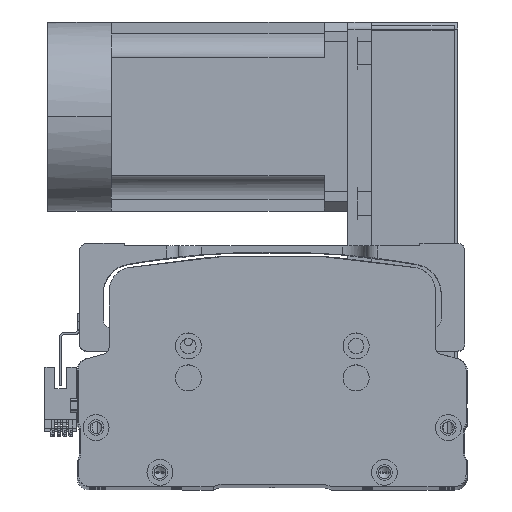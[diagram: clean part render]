
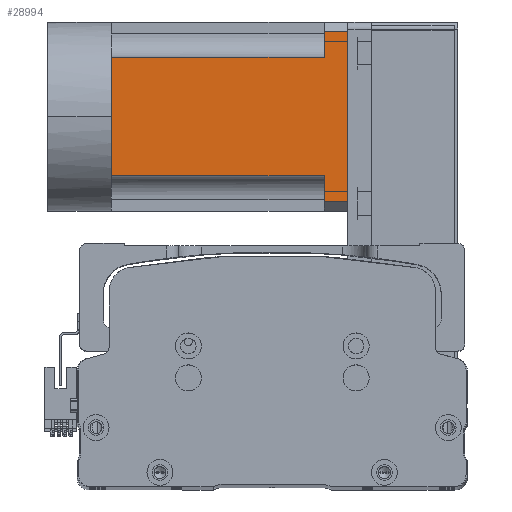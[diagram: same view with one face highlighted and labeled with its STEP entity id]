
A CAD part, top view. The second image highlights one B-rep face of the part: STEP entity #28994.
In plain terms, the highlighted planar face has unit normal (0, 0, 1) as drawn and (0, 0, -1) by its records, which use the part's own axes.
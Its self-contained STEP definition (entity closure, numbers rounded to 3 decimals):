
#78 = DIRECTION ( 'NONE',  ( -1., 0., 0. ) ) ;
#996 = DIRECTION ( 'NONE',  ( 0., 0., -1. ) ) ;
#1486 = EDGE_LOOP ( 'NONE', ( #32281, #61225, #5238, #38092, #12274, #51672, #6240, #59063, #59424 ) ) ;
#1955 = DIRECTION ( 'NONE',  ( -1., 0., 0. ) ) ;
#2124 = CARTESIAN_POINT ( 'NONE',  ( 0., 0., -40. ) ) ;
#2973 = VECTOR ( 'NONE', #49490, 1000. ) ;
#3785 = CARTESIAN_POINT ( 'NONE',  ( 25., 90., -40. ) ) ;
#4477 = LINE ( 'NONE', #30307, #2973 ) ;
#4815 = EDGE_CURVE ( 'NONE', #37318, #31065, #4477, .T. ) ;
#5238 = ORIENTED_EDGE ( 'NONE', *, *, #39622, .T. ) ;
#6240 = ORIENTED_EDGE ( 'NONE', *, *, #35526, .T. ) ;
#6876 = FACE_OUTER_BOUND ( 'NONE', #1486, .T. ) ;
#7784 = VECTOR ( 'NONE', #1955, 1000. ) ;
#9602 = VECTOR ( 'NONE', #51376, 1000. ) ;
#9955 = DIRECTION ( 'NONE',  ( -1., 0., 0. ) ) ;
#10301 = EDGE_CURVE ( 'NONE', #51426, #16633, #18190, .T. ) ;
#10379 = DIRECTION ( 'NONE',  ( -1., 0., 0. ) ) ;
#12274 = ORIENTED_EDGE ( 'NONE', *, *, #32352, .T. ) ;
#13702 = VECTOR ( 'NONE', #10379, 1000. ) ;
#14902 = LINE ( 'NONE', #51728, #40455 ) ;
#15242 = CARTESIAN_POINT ( 'NONE',  ( -40., -27., -40. ) ) ;
#16633 = VERTEX_POINT ( 'NONE', #56969 ) ;
#17723 = CARTESIAN_POINT ( 'NONE',  ( -36., -27., -40. ) ) ;
#18175 = DIRECTION ( 'NONE',  ( 0., -1., 0. ) ) ;
#18190 = LINE ( 'NONE', #43968, #13702 ) ;
#19078 = CARTESIAN_POINT ( 'NONE',  ( 36., 100., -40. ) ) ;
#19434 = VECTOR ( 'NONE', #78, 1000. ) ;
#20803 = EDGE_CURVE ( 'NONE', #58545, #23748, #44734, .T. ) ;
#22663 = CARTESIAN_POINT ( 'NONE',  ( -36., 100., -40. ) ) ;
#23031 = CARTESIAN_POINT ( 'NONE',  ( 36., -27., -40. ) ) ;
#23748 = VERTEX_POINT ( 'NONE', #42927 ) ;
#24016 = CARTESIAN_POINT ( 'NONE',  ( -40., 90., -40. ) ) ;
#27928 = VERTEX_POINT ( 'NONE', #40456 ) ;
#28665 = LINE ( 'NONE', #23031, #52732 ) ;
#28994 = ADVANCED_FACE ( 'NONE', ( #6876 ), #58539, .T. ) ;
#30307 = CARTESIAN_POINT ( 'NONE',  ( -40., 0., -40. ) ) ;
#31065 = VERTEX_POINT ( 'NONE', #58262 ) ;
#32281 = ORIENTED_EDGE ( 'NONE', *, *, #56486, .F. ) ;
#32352 = EDGE_CURVE ( 'NONE', #23748, #37318, #33319, .T. ) ;
#33319 = LINE ( 'NONE', #54649, #7784 ) ;
#33635 = CARTESIAN_POINT ( 'NONE',  ( -40., 100., -40. ) ) ;
#34580 = DIRECTION ( 'NONE',  ( -1., 0., 0. ) ) ;
#35107 = LINE ( 'NONE', #24016, #46349 ) ;
#35152 = LINE ( 'NONE', #17723, #9602 ) ;
#35526 = EDGE_CURVE ( 'NONE', #31065, #51426, #14902, .T. ) ;
#37318 = VERTEX_POINT ( 'NONE', #2124 ) ;
#37372 = DIRECTION ( 'NONE',  ( 0., -1., 0. ) ) ;
#38092 = ORIENTED_EDGE ( 'NONE', *, *, #20803, .T. ) ;
#39350 = CARTESIAN_POINT ( 'NONE',  ( -25., 90., -40. ) ) ;
#39400 = AXIS2_PLACEMENT_3D ( 'NONE', #15242, #996, #34580 ) ;
#39622 = EDGE_CURVE ( 'NONE', #27928, #58545, #35107, .T. ) ;
#40455 = VECTOR ( 'NONE', #41846, 1000. ) ;
#40456 = CARTESIAN_POINT ( 'NONE',  ( 36., 90., -40. ) ) ;
#41846 = DIRECTION ( 'NONE',  ( 0., 1., 0. ) ) ;
#42927 = CARTESIAN_POINT ( 'NONE',  ( 25., 0., -40. ) ) ;
#43968 = CARTESIAN_POINT ( 'NONE',  ( -40., 90., -40. ) ) ;
#44734 = LINE ( 'NONE', #61363, #55993 ) ;
#46349 = VECTOR ( 'NONE', #9955, 1000. ) ;
#48868 = VERTEX_POINT ( 'NONE', #22663 ) ;
#49490 = DIRECTION ( 'NONE',  ( -1., 0., 0. ) ) ;
#51156 = EDGE_CURVE ( 'NONE', #16633, #48868, #35152, .T. ) ;
#51376 = DIRECTION ( 'NONE',  ( 0., 1., 0. ) ) ;
#51426 = VERTEX_POINT ( 'NONE', #39350 ) ;
#51672 = ORIENTED_EDGE ( 'NONE', *, *, #4815, .T. ) ;
#51728 = CARTESIAN_POINT ( 'NONE',  ( -25., -27., -40. ) ) ;
#52732 = VECTOR ( 'NONE', #18175, 1000. ) ;
#54649 = CARTESIAN_POINT ( 'NONE',  ( -40., 0., -40. ) ) ;
#55136 = EDGE_CURVE ( 'NONE', #60308, #27928, #28665, .T. ) ;
#55993 = VECTOR ( 'NONE', #37372, 1000. ) ;
#56486 = EDGE_CURVE ( 'NONE', #60308, #48868, #59340, .T. ) ;
#56969 = CARTESIAN_POINT ( 'NONE',  ( -36., 90., -40. ) ) ;
#58262 = CARTESIAN_POINT ( 'NONE',  ( -25., 0., -40. ) ) ;
#58539 = PLANE ( 'NONE',  #39400 ) ;
#58545 = VERTEX_POINT ( 'NONE', #3785 ) ;
#59063 = ORIENTED_EDGE ( 'NONE', *, *, #10301, .T. ) ;
#59340 = LINE ( 'NONE', #33635, #19434 ) ;
#59424 = ORIENTED_EDGE ( 'NONE', *, *, #51156, .T. ) ;
#60308 = VERTEX_POINT ( 'NONE', #19078 ) ;
#61225 = ORIENTED_EDGE ( 'NONE', *, *, #55136, .T. ) ;
#61363 = CARTESIAN_POINT ( 'NONE',  ( 25., -27., -40. ) ) ;
